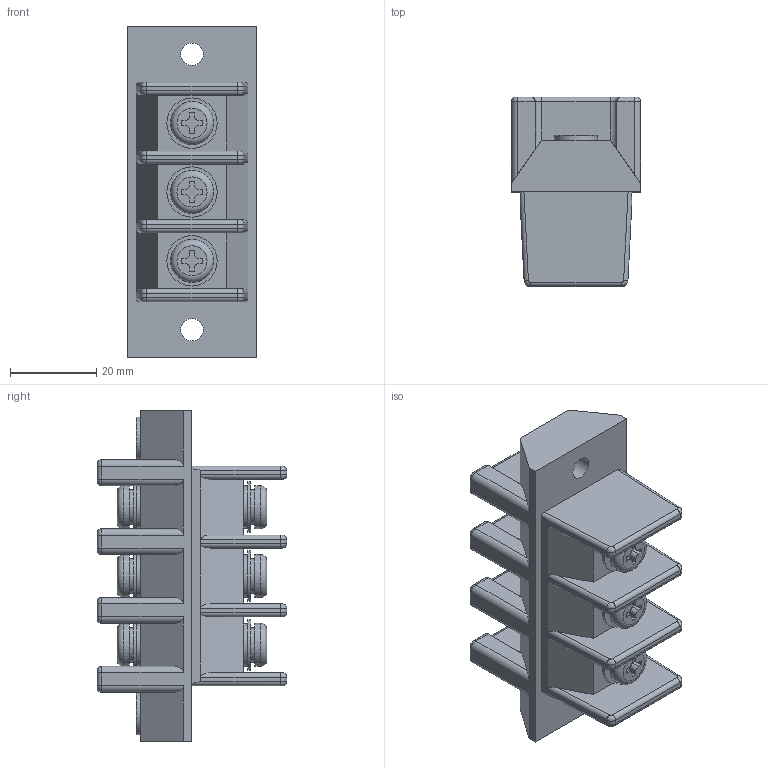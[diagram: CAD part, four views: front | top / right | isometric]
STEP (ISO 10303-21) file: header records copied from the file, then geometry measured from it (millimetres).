
FILE_DESCRIPTION(/* description */ ('Alibre Inc.'),/* implementation_level */ '2;1');
FILE_NAME(/* name */ 'export-033FEA0C-F0F9-4059-A2BE-75FEBB3E2881',/* time_stamp */ '2025-02-21T11:51:36+09:00',/* author */ (''),/* organization */ (''),/* preprocessor_version */ 'ST-DEVELOPER v17',/* originating_system */ 'Alibre',/* authorisation */ '');
FILE_SCHEMA (('CONFIG_CONTROL_DESIGN'));
Length unit declared in the file: millimetre
Bounding box: 30 x 44 x 77 mm (x, y, z)
Volume: 46981.9 mm3; surface area: 16789.3 mm2
Topology: 1 solids, 10 shells, 436 faces, 1009 edges, 626 vertices
Faces by surface type: plane 201, cylinder 169, torus 54, cone 12
Full cylindrical faces by diameter (mm): 4.4 x6, 4.6 x6, 5 x9, 5.2 x2, 8 x6, 9.9 x8, 10 x6, 11.7 x6
Entity records: 11658 total; most frequent: CARTESIAN_POINT 2134, ORIENTED_EDGE 1868, DIRECTION 1853, EDGE_CURVE 934, AXIS2_PLACEMENT_3D 788, VERTEX_POINT 618, EDGE_LOOP 552, FACE_BOUND 552
